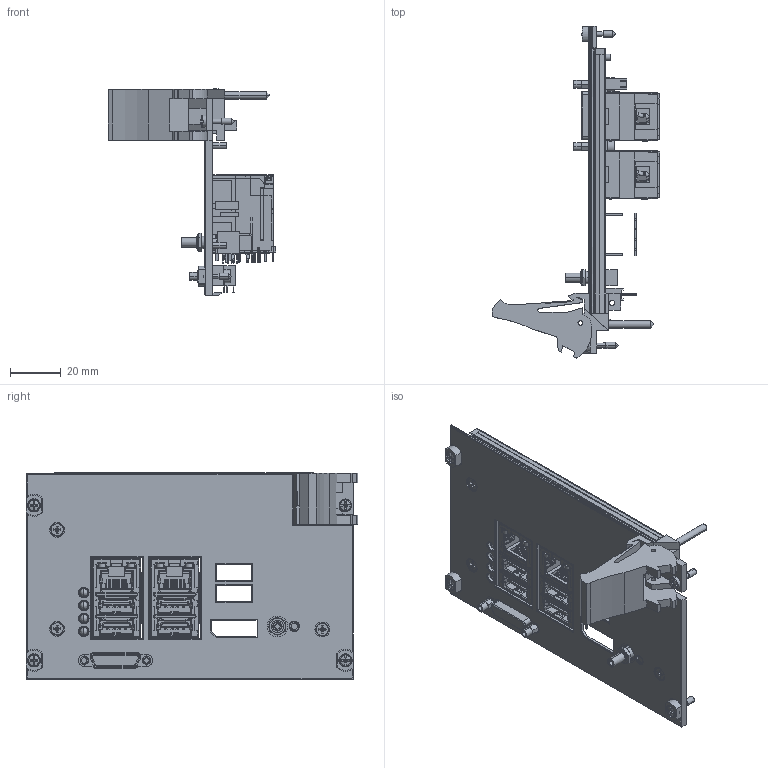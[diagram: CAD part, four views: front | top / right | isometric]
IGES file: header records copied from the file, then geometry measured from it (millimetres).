
Start section:  PTC IGES file: cu_pxie-8880.igs
Global section: file name: cu_pxie-8880.igs; native system: Creo Parametric by Parametric Technology Corporation; preprocessor: 2014000; author: talbott; organization: Unknown; date: 20140909.140611; units: inch
Bounding box: 65.82 x 130.5 x 81.22 mm (x, y, z)
Surface area: 60651.7 mm2 (no closed solid volume)
Topology: 0 solids, 0 shells, 5471 faces, 30088 edges, 30060 vertices
Faces by surface type: bspline 4067, revolution 1404
